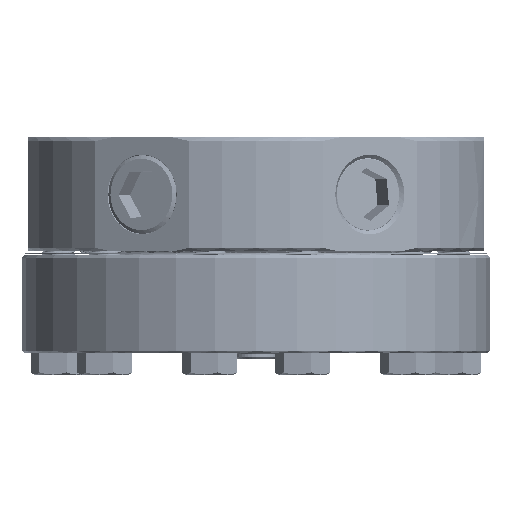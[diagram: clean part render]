
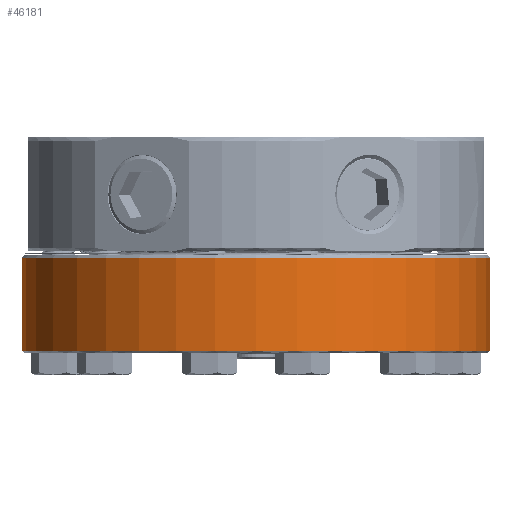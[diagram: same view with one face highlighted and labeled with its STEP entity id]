
A CAD part, front view. The second image highlights one B-rep face of the part: STEP entity #46181.
In plain terms, the highlighted cylindrical face has radius 99.06 mm (diameter 198.12 mm), a full revolution.
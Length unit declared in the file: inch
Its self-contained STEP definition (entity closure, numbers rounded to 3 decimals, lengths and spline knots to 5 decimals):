
#4253=FACE_OUTER_BOUND('',#6722,.T.);
#6722=EDGE_LOOP('',(#37368,#37369,#37370,#37371,#37372,#37373));
#8026=CIRCLE('',#48966,3.9);
#8027=CIRCLE('',#48967,3.9);
#8028=CIRCLE('',#48969,3.9);
#8029=CIRCLE('',#48970,3.9);
#11691=LINE('',#120789,#15866);
#15866=VECTOR('',#56345,3.9);
#20505=VERTEX_POINT('',#120782);
#20506=VERTEX_POINT('',#120784);
#20507=VERTEX_POINT('',#120788);
#20508=VERTEX_POINT('',#120790);
#26378=EDGE_CURVE('',#20505,#20506,#8026,.T.);
#26379=EDGE_CURVE('',#20506,#20505,#8027,.T.);
#26380=EDGE_CURVE('',#20506,#20507,#11691,.T.);
#26381=EDGE_CURVE('',#20508,#20507,#8028,.T.);
#26382=EDGE_CURVE('',#20507,#20508,#8029,.T.);
#37368=ORIENTED_EDGE('',*,*,#26378,.F.);
#37369=ORIENTED_EDGE('',*,*,#26379,.F.);
#37370=ORIENTED_EDGE('',*,*,#26380,.T.);
#37371=ORIENTED_EDGE('',*,*,#26381,.F.);
#37372=ORIENTED_EDGE('',*,*,#26382,.F.);
#37373=ORIENTED_EDGE('',*,*,#26380,.F.);
#42140=CYLINDRICAL_SURFACE('',#48968,3.9);
#46181=ADVANCED_FACE('',(#4253),#42140,.T.);
#48966=AXIS2_PLACEMENT_3D('',#120785,#56339,#56340);
#48967=AXIS2_PLACEMENT_3D('',#120786,#56341,#56342);
#48968=AXIS2_PLACEMENT_3D('',#120787,#56343,#56344);
#48969=AXIS2_PLACEMENT_3D('',#120791,#56346,#56347);
#48970=AXIS2_PLACEMENT_3D('',#120792,#56348,#56349);
#56339=DIRECTION('center_axis',(0.,0.,
1.));
#56340=DIRECTION('ref_axis',(1.,0.,0.));
#56341=DIRECTION('center_axis',(0.,0.,
1.));
#56342=DIRECTION('ref_axis',(1.,0.,0.));
#56343=DIRECTION('center_axis',(0.,0.,
1.));
#56344=DIRECTION('ref_axis',(-1.,0.,0.));
#56345=DIRECTION('',(0.,0.,-1.));
#56346=DIRECTION('center_axis',(0.,0.,
-1.));
#56347=DIRECTION('ref_axis',(1.,0.,0.));
#56348=DIRECTION('center_axis',(0.,0.,
-1.));
#56349=DIRECTION('ref_axis',(1.,0.,0.));
#120782=CARTESIAN_POINT('',(-3.9,0.,-1.052));
#120784=CARTESIAN_POINT('',(3.9,0.,-1.052));
#120785=CARTESIAN_POINT('Origin',(0.,0.,
-1.052));
#120786=CARTESIAN_POINT('Origin',(0.,0.,
-1.052));
#120787=CARTESIAN_POINT('Origin',(0.,0.,
-1.827));
#120788=CARTESIAN_POINT('',(3.9,0.,-2.602));
#120789=CARTESIAN_POINT('',(3.9,0.,-1.827));
#120790=CARTESIAN_POINT('',(-3.9,0.,-2.602));
#120791=CARTESIAN_POINT('Origin',(0.,0.,
-2.602));
#120792=CARTESIAN_POINT('Origin',(0.,0.,
-2.602));
